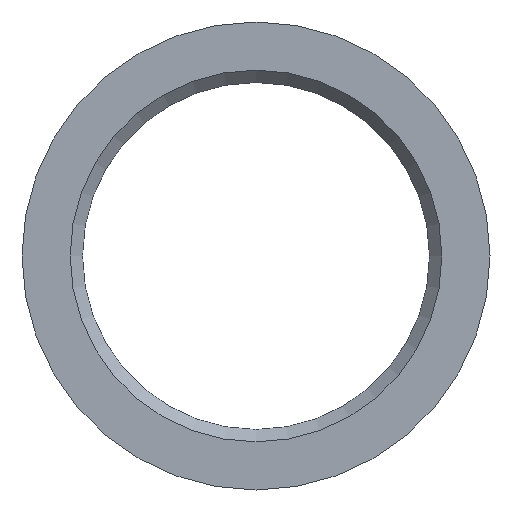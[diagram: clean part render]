
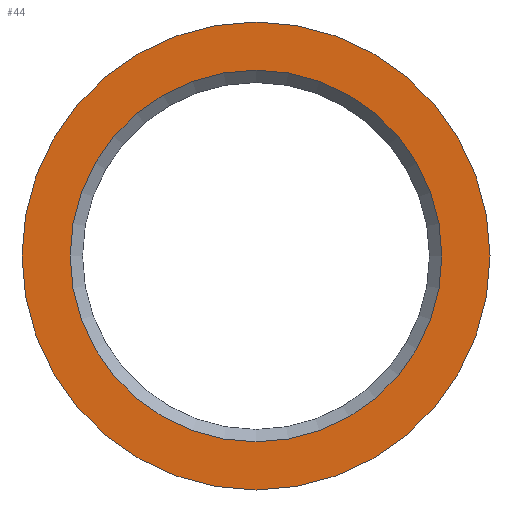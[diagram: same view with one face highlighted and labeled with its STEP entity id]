
A CAD part, front view. The second image highlights one B-rep face of the part: STEP entity #44.
In plain terms, the highlighted planar face has unit normal (0, -1, 0).
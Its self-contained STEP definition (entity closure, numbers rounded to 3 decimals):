
#44=ADVANCED_FACE('',(#63,#65),#67,.F.);
#63=FACE_BOUND('',#64,.T.);
#64=EDGE_LOOP('',(#210));
#65=FACE_BOUND('',#66,.T.);
#66=EDGE_LOOP('',(#211));
#67=PLANE('',#68);
#68=AXIS2_PLACEMENT_3D('',#69,#70,#71);
#69=CARTESIAN_POINT('',(0.,0.,0.));
#70=DIRECTION('',(0.,1.,0.));
#71=DIRECTION('',(-1.,0.,0.));
#210=ORIENTED_EDGE('',*,*,#294,.F.);
#211=ORIENTED_EDGE('',*,*,#295,.T.);
#294=EDGE_CURVE('',#336,#336,#337,.T.);
#295=EDGE_CURVE('',#338,#338,#339,.T.);
#336=VERTEX_POINT('',#408);
#337=CIRCLE('',#409,30.25);
#338=VERTEX_POINT('',#413);
#339=CIRCLE('',#414,24.023);
#408=CARTESIAN_POINT('',(-30.25,0.,0.));
#409=AXIS2_PLACEMENT_3D('',#410,#411,#412);
#410=CARTESIAN_POINT('',(0.,0.,0.));
#411=DIRECTION('',(0.,1.,0.));
#412=DIRECTION('',(-1.,0.,0.));
#413=CARTESIAN_POINT('',(-24.023,0.,0.));
#414=AXIS2_PLACEMENT_3D('',#415,#416,#417);
#415=CARTESIAN_POINT('',(0.,0.,0.));
#416=DIRECTION('',(0.,1.,0.));
#417=DIRECTION('',(-1.,0.,0.));
